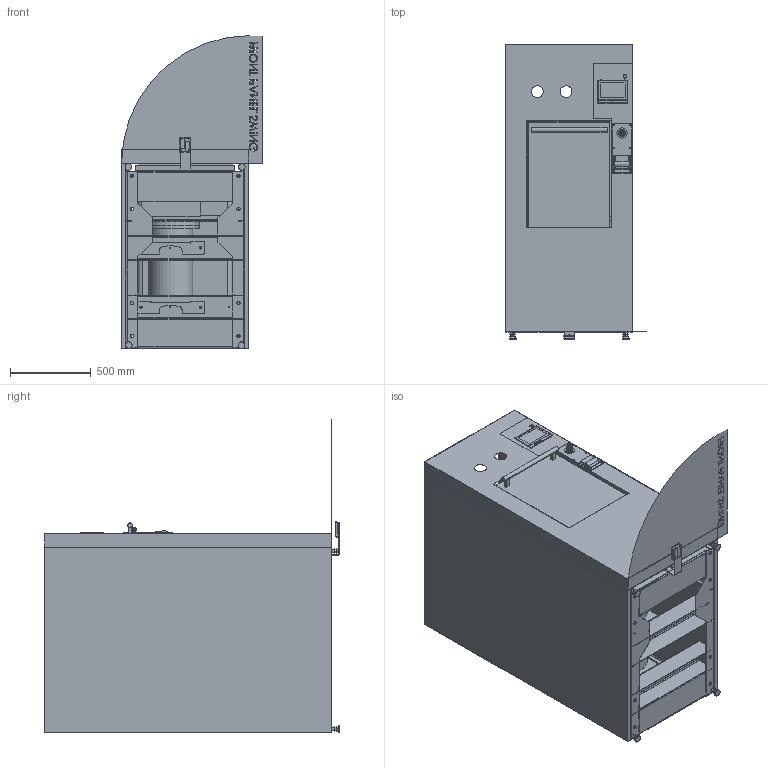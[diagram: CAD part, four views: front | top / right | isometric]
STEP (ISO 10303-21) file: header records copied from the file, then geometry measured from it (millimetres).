
FILE_DESCRIPTION (( 'STEP AP203' ), '1' );
FILE_NAME ('3AV-HC - CAB - RIGHT CONTROLS.STEP', '2026-05-18T17:49:07', ( '' ), ( '' ), 'SwSTEP 2.0', 'SolidWorks 2024', '' );
FILE_SCHEMA (( 'CONFIG_CONTROL_DESIGN' ));
Length unit declared in the file: inch
Products named in the file (77): REVIT - 93414 - TOP MOUNT CONTROL BOX - REAR; REVIT - PROGEN FACE PLATE; REVIT - 93363 - TOP CROSS 3AV FRAME MEMBER; REVIT - 93359 - 3AV MIDDLE HORIZONTAL FRAME MEMBER HC FRONT MOUNT_-02, Right; REVIT - 92852-20X20 JACKET-BOTTOM_Config1; REVIT - 93558 - 3AV SIDE PANEL_Config1; Door Swing_Left Controls; COVER_01_1.stp; REVIT - 93415 - TOP MOUNT CONTROL BOX - SIDES_With Holes; REVIT - 93391 - 3AV PRINTER PLATE_Config1; REVIT - 93365 - AIR COMPRESSOR SUPPORT 3AV FRAME MEMBER; SCREW_01_1.stp; REVIT - 93615 - 3AV CHAMBER IN FRAME_No Rollers; REVIT - 93360 - TOP HORIZONTAL 3AV FRAME MEMBER_Left; REVIT - 93370 - 3AV DOOR COVER; REVIT - 93620 - 3AV Side Panel Assembly; REVIT - 93514 - 3AV OVERLAY_-02; REVIT - 93364 - COUNTERWEIGHT SUPPORT 3AV FRAME MEMBER; REVIT - 3AV FOOT PEDAL BRACKET_Config1; REVIT - PROGEN CHAMBER & PANEL ASSM_Right Hinge; REVIT - 93531 - 3AV BOTTOM HORIZONTAL FRAME MEMBER - HC FRONT MOUNT_-02, RIGHT; REVIT - 93364 - COUNTERWEIGHT SUPPORT 3AV FRAME MEMBER_Right; REVIT - PROGEN CHAMBER BLANK; PLATE_01_1.stp; REVIT - PROGEN RING FLANGE; REVIT - 93362 - MIDDLE CROSS 3AV FRAME MEMBER; REVIT - 93361 - BOTTOM CROSS 3AV FRAME MEMBER; REVIT - 92613 - 3AV DOOR BLANK_BLANK; REVIT - 93375 - 3AV FRONT PANEL_91218-01 Right Hinge; REVIT - 3AV ENDRING_Machined; REVIT - gt2107w_a; REVIT - PROGEN PANEL COVER; REVIT - 91214 - 3AV DOOR MACHINING; REVIT -  PROGEN CHAMBER WELDMENT; REVIT - 93530 - 3AV FRAME UPRIGHT_-02, RIGHT; REVIT - 91354 - 3AV ENDRING; gt2107w_a.stp; REVIT -  PROGEN REAR HEAD; REVIT - 93360 - TOP HORIZONTAL 3AV FRAME MEMBER_RightLeft; REVIT - xb5as86449b4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
Assembly tree (94 placements, depth 5):
  3AV-HC - CAB - RIGHT CONTROLS
    REVIT - 93615 - 3AV CHAMBER IN FRAME_No Rollers
      REVIT - 93369 - 3AV FRAME ASSEMBLY
        REVIT - 93530 - 3AV FRAME UPRIGHT_-01, Left
        REVIT - 93530 - 3AV FRAME UPRIGHT_-02, RIGHT
        REVIT - 93530 - 3AV FRAME UPRIGHT_Rear Upright  x2
        REVIT - 93531 - 3AV BOTTOM HORIZONTAL FRAME MEMBER - HC FRONT MOUNT_-02, RIGHT
        REVIT - 93531 - 3AV BOTTOM HORIZONTAL FRAME MEMBER - HC FRONT MOUNT_-01, LEFT
        REVIT - 93361 - BOTTOM CROSS 3AV FRAME MEMBER  x2
        REVIT - 93359 - 3AV MIDDLE HORIZONTAL FRAME MEMBER HC FRONT MOUNT_-01, Left
        REVIT - 93359 - 3AV MIDDLE HORIZONTAL FRAME MEMBER HC FRONT MOUNT_-02, Right
        REVIT - 93360 - TOP HORIZONTAL 3AV FRAME MEMBER_RightLeft
        REVIT - 93360 - TOP HORIZONTAL 3AV FRAME MEMBER_Left
        REVIT - 93362 - MIDDLE CROSS 3AV FRAME MEMBER
        REVIT - 93365 - AIR COMPRESSOR SUPPORT 3AV FRAME MEMBER
        REVIT - 93363 - TOP CROSS 3AV FRAME MEMBER  x2
        REVIT - 93364 - COUNTERWEIGHT SUPPORT 3AV FRAME MEMBER
        REVIT - 93364 - COUNTERWEIGHT SUPPORT 3AV FRAME MEMBER_Right
        REVIT - 93533 - 3AV FRAME FRONT MIDDLE CROSSMEMBER_Middle Frame Support
        REVIT - NUT, COUPLING, .75-10, UNCOATED_90264A243  x4
      REVIT - FOOT, POLYMOUNT .75-10 1.58_Config1  x4
      REVIT - 92666 - 3AV CHAMBER WELDMENT_92607-01 
        REVIT - 92849-20X20 CHAMBER-TOP_316L SS
        REVIT - 92851-20X20 CHAMBER-BOTTOM_Drain Half for 92608
        REVIT - 92850-20X20 JACKET-TOP_Config1
        REVIT - 92852-20X20 JACKET-BOTTOM_Config1
        REVIT - 92235 - 20 x 20 BACKHEAD_92235-01 - S.S. SA-240-316L
        REVIT - 91354 - 3AV ENDRING
          REVIT - 3AV ENDRING_Machined
    REVIT - 93555 - 3AV DOOR KIT_0 whole assembly 
      REVIT - 92667 - 3AV DOOR WELDMENT
        REVIT - 91214 - 3AV DOOR MACHINING
          REVIT - 92613 - 3AV DOOR BLANK_BLANK
      REVIT - 93370 - 3AV DOOR COVER
      REVIT - 02-251 - VERTICAL DOOR HANDLE_3743N115
    REVIT - 93383 - 3AV FRONT PANEL KIT_91517-01 Right Hinged
      REVIT - 93376 - 3AV FRONT PANEL WELDMENT_92615-01 Right Hand Hinge
        REVIT - 93375 - 3AV FRONT PANEL_91218-01 Right Hinge
      REVIT - 93511 -  3AV PRINTER PLATE ASSEM
        REVIT - 93391 - 3AV PRINTER PLATE_Config1
      REVIT - xb5as86449b4
      REVIT - NAUT250L Printer_Config1
      REVIT - 93514 - 3AV OVERLAY_-01
      REVIT - 93514 - 3AV OVERLAY_-02
      REVIT - gt2107w_a
        gt2107w_a.stp
          GT2107_1.stp
          COVER_01_1.stp
          COVER_02_1.stp
          COVER_03_1.stp
          PLATE_01_1.stp  x4
          SCREW_01_1.stp  x4
    REVIT - 3AV FOOT PEDAL BRACKET_Config1
    REVIT - Foot Pedal_Config1
    REVIT - 93620 - 3AV Side Panel Assembly  x2
      REVIT - 93558 - 3AV SIDE PANEL_Config1
    REVIT - 93532 - 3AV GENERATOR STAND - HC FRONT MOUNT_Config1  x2
    REVIT - PROGEN CHAMBER & PANEL ASSM_Right Hinge
      REVIT - PROGEN FACE PLATE
      REVIT -  PROGEN CHAMBER WELDMENT
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Bounding box: 872.33 x 1824.05 x 1934.77 mm (x, y, z)
Volume: 71059643.7 mm3; surface area: 34399829.4 mm2
Topology: 81 solids, 81 shells, 5008 faces, 13644 edges, 8884 vertices
Faces by surface type: plane 3054, cylinder 1520, bspline 200, cone 116, torus 105, sphere 13
Entity records: 158182 total; most frequent: CARTESIAN_POINT 43871, ORIENTED_EDGE 23406, DIRECTION 19768, EDGE_CURVE 11703, VECTOR 8080, LINE 8080, VERTEX_POINT 7647, AXIS2_PLACEMENT_3D 5844
